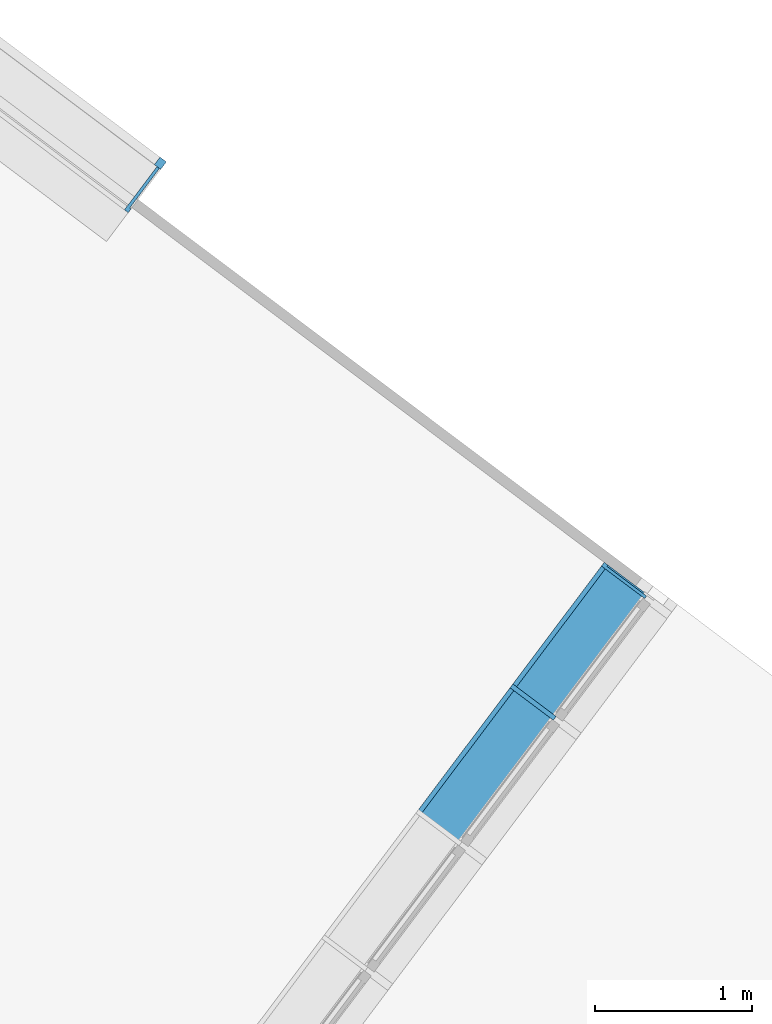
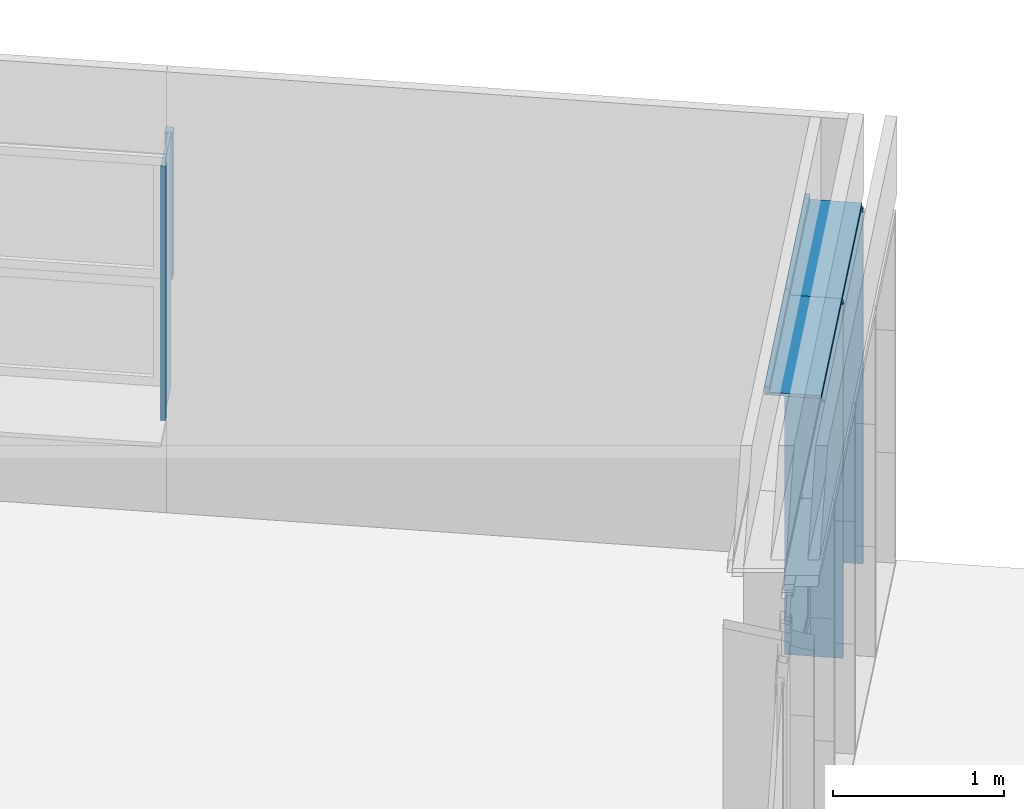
# One storey, part 74 of 243: 6 members, 3 elements without a shape of their own.
"""IFC2X3 building model written with IfcOpenShell, lengths in metres."""

from ifc_helpers import new_model, entity, si_unit, converted_unit, derived_unit, direction, frame, frame_2d, origin, place, context, subcontext, project, spatial, polyline, rectangle, outline, extrude, source, transform, mapped, material, type_object, type_shapes, element, aggregate, save


model = new_model("IFC2X3")

# Units and contexts
model_context = context("Model", 3, precision=1e-05, world=origin(), true_north=direction((6.123031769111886e-17, 1.0)))
body_context = subcontext(model_context, "Body", "Model", "MODEL_VIEW")
ifc_project = project(units=[si_unit("LENGTHUNIT", "METRE"), si_unit("AREAUNIT", "SQUARE_METRE"), si_unit("VOLUMEUNIT", "CUBIC_METRE"), converted_unit("PLANEANGLEUNIT", "DEGREE", entity("IfcRatioMeasure", 0.017453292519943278), si_unit("PLANEANGLEUNIT", "RADIAN"), dimensions=[0, 0, 0, 0, 0, 0, 0]), si_unit("MASSUNIT", "GRAM", prefix="KILO"), derived_unit("MASSDENSITYUNIT", [(si_unit("MASSUNIT", "GRAM", prefix="KILO"), 1), (si_unit("LENGTHUNIT", "METRE"), -3)]), derived_unit("IONCONCENTRATIONUNIT", [(si_unit("MASSUNIT", "GRAM", prefix="KILO"), 1), (si_unit("LENGTHUNIT", "METRE"), -3)]), derived_unit("MOMENTOFINERTIAUNIT", [(si_unit("LENGTHUNIT", "METRE"), 4)]), si_unit("TIMEUNIT", "SECOND"), si_unit("FREQUENCYUNIT", "HERTZ"), si_unit("THERMODYNAMICTEMPERATUREUNIT", "DEGREE_CELSIUS"), derived_unit("THERMALTRANSMITTANCEUNIT", [(si_unit("MASSUNIT", "GRAM", prefix="KILO"), 1), (si_unit("THERMODYNAMICTEMPERATUREUNIT", "KELVIN"), -1), (si_unit("TIMEUNIT", "SECOND"), -3)]), derived_unit("THERMALCONDUCTANCEUNIT", [(si_unit("MASSUNIT", "GRAM", prefix="KILO"), 1), (si_unit("THERMODYNAMICTEMPERATUREUNIT", "KELVIN"), -1), (si_unit("TIMEUNIT", "SECOND"), -3), (si_unit("LENGTHUNIT", "METRE"), 1)]), derived_unit("VOLUMETRICFLOWRATEUNIT", [(si_unit("LENGTHUNIT", "METRE"), 3), (si_unit("TIMEUNIT", "SECOND"), -1)]), derived_unit("MASSFLOWRATEUNIT", [(si_unit("MASSUNIT", "GRAM", prefix="KILO"), 1), (si_unit("TIMEUNIT", "SECOND"), -1)]), derived_unit("ROTATIONALFREQUENCYUNIT", [(si_unit("TIMEUNIT", "SECOND"), -1)]), si_unit("ELECTRICCURRENTUNIT", "AMPERE"), si_unit("ELECTRICVOLTAGEUNIT", "VOLT"), si_unit("POWERUNIT", "WATT"), si_unit("FORCEUNIT", "NEWTON", prefix="KILO"), si_unit("ILLUMINANCEUNIT", "LUX"), si_unit("LUMINOUSFLUXUNIT", "LUMEN"), si_unit("LUMINOUSINTENSITYUNIT", "CANDELA"), derived_unit("USERDEFINED", [(si_unit("MASSUNIT", "GRAM", prefix="KILO"), -1), (si_unit("LENGTHUNIT", "METRE"), -2), (si_unit("TIMEUNIT", "SECOND"), 3), (si_unit("LUMINOUSFLUXUNIT", "LUMEN"), 1)]), derived_unit("USERDEFINED", [(si_unit("MASSUNIT", "GRAM", prefix="KILO"), 1), (si_unit("TIMEUNIT", "SECOND"), -3), (si_unit("LENGTHUNIT", "METRE"), 3), (si_unit("ELECTRICCURRENTUNIT", "AMPERE"), -2)]), derived_unit("SOUNDPOWERUNIT", [(si_unit("MASSUNIT", "GRAM", prefix="KILO"), 1), (si_unit("TIMEUNIT", "SECOND"), -3), (si_unit("LENGTHUNIT", "METRE"), 2)]), derived_unit("SOUNDPRESSUREUNIT", [(si_unit("MASSUNIT", "GRAM", prefix="KILO"), 1), (si_unit("LENGTHUNIT", "METRE"), -1), (si_unit("TIMEUNIT", "SECOND"), -2)]), derived_unit("LINEARVELOCITYUNIT", [(si_unit("LENGTHUNIT", "METRE"), 1), (si_unit("TIMEUNIT", "SECOND"), -1)]), si_unit("PRESSUREUNIT", "PASCAL"), derived_unit("USERDEFINED", [(si_unit("MASSUNIT", "GRAM", prefix="KILO"), 1), (si_unit("LENGTHUNIT", "METRE"), -2), (si_unit("TIMEUNIT", "SECOND"), -2)]), derived_unit("LINEARFORCEUNIT", [(si_unit("MASSUNIT", "GRAM", prefix="KILO"), 1), (si_unit("TIMEUNIT", "SECOND"), -2)]), derived_unit("PLANARFORCEUNIT", [(si_unit("MASSUNIT", "GRAM", prefix="KILO"), 1), (si_unit("LENGTHUNIT", "METRE"), -1), (si_unit("TIMEUNIT", "SECOND"), -2)]), derived_unit("SPECIFICHEATCAPACITYUNIT", [(si_unit("THERMODYNAMICTEMPERATUREUNIT", "KELVIN"), -1), (si_unit("LENGTHUNIT", "METRE"), 2), (si_unit("TIMEUNIT", "SECOND"), -2)]), derived_unit("HEATINGVALUEUNIT", [(si_unit("LENGTHUNIT", "METRE"), 2), (si_unit("TIMEUNIT", "SECOND"), -2)]), derived_unit("VAPORPERMEABILITYUNIT", [(si_unit("LENGTHUNIT", "METRE"), -1), (si_unit("TIMEUNIT", "SECOND"), 1)]), derived_unit("DYNAMICVISCOSITYUNIT", [(si_unit("MASSUNIT", "GRAM", prefix="KILO"), 1), (si_unit("TIMEUNIT", "SECOND"), -1), (si_unit("LENGTHUNIT", "METRE"), -1)]), derived_unit("THERMALEXPANSIONCOEFFICIENTUNIT", [(si_unit("THERMODYNAMICTEMPERATUREUNIT", "KELVIN"), -1)]), derived_unit("MODULUSOFELASTICITYUNIT", [(si_unit("MASSUNIT", "GRAM", prefix="KILO"), 1), (si_unit("LENGTHUNIT", "METRE"), -1), (si_unit("TIMEUNIT", "SECOND"), -2)]), derived_unit("ISOTHERMALMOISTURECAPACITYUNIT", [(si_unit("LENGTHUNIT", "METRE"), 3), (si_unit("MASSUNIT", "GRAM", prefix="KILO"), -1)]), derived_unit("MOISTUREDIFFUSIVITYUNIT", [(si_unit("TIMEUNIT", "SECOND"), -1), (si_unit("LENGTHUNIT", "METRE"), 2)])], contexts=[model_context])

# Site, building, storey
site_placement = place(None, frame((0.0, 0.0, 235.0), z_axis=(0.0, 0.0, 1.0), x_axis=(-0.7996477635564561, 0.6004693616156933, 0.0)))
site = spatial("IfcSite", under=ifc_project, at=site_placement, Name="Default", CompositionType="ELEMENT")
building_placement = place(site_placement, origin())
building = spatial("IfcBuilding", under=site, at=building_placement, CompositionType="ELEMENT")
storey_placement = place(building_placement, origin())
storey = spatial("IfcBuildingStorey", under=building, at=storey_placement, Name="P0- Escola", CompositionType="ELEMENT", Elevation=0.0)

# Curtain wall, members
curtain_wall_type_1 = type_object("IfcCurtainWallType", Name="Muro cortina:MC- INT- k7- Aules infantil", PredefinedType="NOTDEFINED")
curtain_wall_1_placement = place(storey_placement, origin())
curtain_wall_1 = element("IfcCurtainWall", 1, at=curtain_wall_1_placement, inside=storey, type_object=curtain_wall_type_1, Name="Muro cortina:MC- INT- k7- Aules infantil", ObjectType="Muro cortina:MC- INT- k7- Aules infantil")
ifc_material_1 = material(Name="_Fusta massisa- T1")
member_type_1 = type_object("IfcMemberType", Name="Montante rectangular:MC- Fusta- 35x3 cm- Pati aules- Remat superior", PredefinedType="MULLION", material=ifc_material_1)
shared_shape_1 = source(origin(), body_context, "Body", "SweptSolid", [
    extrude(outline(polyline([(-0.21333333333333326, -0.02666666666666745), (0.1216666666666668, -0.02666666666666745), (0.12166666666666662, 0.03333333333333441), (0.09166666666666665, 0.03333333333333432), (0.09166666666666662, -0.006666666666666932), (-0.2133333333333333, -0.006666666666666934), (-0.21333333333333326, -0.02666666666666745)])), frame((-0.033333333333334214, 0.026666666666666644, -0.9849999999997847), z_axis=(0.0, 0.0, 1.0), x_axis=(0.0, -1.0, 0.0)), (0.0, 0.0, 1.0), 0.9849999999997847),
])
type_shapes(member_type_1, [shared_shape_1])
member_1_placement = place(curtain_wall_1_placement, frame((6.18514768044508, -41.97519175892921, 2.6), z_axis=(0.0, -1.0, 0.0), x_axis=(0.0, 0.0, 1.0)))
member_1 = element("IfcMember", 2, at=member_1_placement, type_object=member_type_1, material=ifc_material_1, Name="Montante rectangular:MC- Fusta- 35x3 cm- Pati aules- Remat superior", ObjectType="Montante rectangular:MC- Fusta- 35x3 cm- Pati aules- Remat superior", context=body_context, shape_type="MappedRepresentation", body=[
    mapped(shared_shape_1, transform((0.0, 0.0, 0.0), scale=1.0)),
])
member_type_2 = type_object("IfcMemberType", Name="Montante rectangular:MC- Fusta- 35x3 cm- Pati aules- Remat dreta", PredefinedType="MULLION", material=ifc_material_1)
shared_shape_2 = source(origin(), body_context, "Body", "SweptSolid", [
    extrude(outline(polyline([(-0.22000000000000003, -0.01666666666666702), (0.12500000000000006, -0.01666666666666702), (0.12499999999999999, 0.013333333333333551), (0.09500000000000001, 0.013333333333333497), (0.09499999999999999, 0.003333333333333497), (-0.22, 0.003333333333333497), (-0.22000000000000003, -0.01666666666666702)])), frame((-0.013333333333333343, 0.030000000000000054, -2.5399999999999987), z_axis=(0.0, 0.0, 1.0), x_axis=(0.0, -1.0, 0.0)), (0.0, 0.0, 1.0), 2.5399999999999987),
])
type_shapes(member_type_2, [shared_shape_2])
member_2_placement = place(curtain_wall_1_placement, frame((6.18514768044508, -41.97519175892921, 0.0), z_axis=(0.0, 0.0, -1.0), x_axis=(0.0, -1.0, 0.0)))
member_2 = element("IfcMember", 3, at=member_2_placement, type_object=member_type_2, material=ifc_material_1, Name="Montante rectangular:MC- Fusta- 35x3 cm- Pati aules- Remat dreta", ObjectType="Montante rectangular:MC- Fusta- 35x3 cm- Pati aules- Remat dreta", context=body_context, shape_type="MappedRepresentation", body=[
    mapped(shared_shape_2, transform((0.0, 0.0, 0.0), scale=1.0)),
])
member_type_3 = type_object("IfcMemberType", Name="Montante rectangular:MC- Fusta- 35x3 cm- Pati aules- Remat superior", PredefinedType="MULLION", material=ifc_material_1)
shared_shape_3 = source(origin(), body_context, "Body", "SweptSolid", [
    extrude(outline(polyline([(-0.2133333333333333, -0.02666666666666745), (0.12166666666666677, -0.02666666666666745), (0.1216666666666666, 0.03333333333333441), (0.09166666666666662, 0.03333333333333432), (0.0916666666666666, -0.006666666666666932), (-0.21333333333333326, -0.006666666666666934), (-0.2133333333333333, -0.02666666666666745)])), frame((-0.033333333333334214, 0.026666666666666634, -1.0), z_axis=(0.0, 0.0, 1.0), x_axis=(0.0, -1.0, 0.0)), (0.0, 0.0, 1.0), 0.9999999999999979),
])
type_shapes(member_type_3, [shared_shape_3])
member_3_placement = place(curtain_wall_1_placement, frame((6.1851476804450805, -40.99019175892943, 2.6), z_axis=(0.0, -1.0, 0.0), x_axis=(0.0, 0.0, 1.0)))
member_3 = element("IfcMember", 4, at=member_3_placement, type_object=member_type_3, material=ifc_material_1, Name="Montante rectangular:MC- Fusta- 35x3 cm- Pati aules- Remat superior", ObjectType="Montante rectangular:MC- Fusta- 35x3 cm- Pati aules- Remat superior", context=body_context, shape_type="MappedRepresentation", body=[
    mapped(shared_shape_3, transform((0.0, 0.0, 0.0), scale=1.0)),
])
member_type_4 = type_object("IfcMemberType", Name="Montante rectangular:MC- Fusta- 35x3 cm- Centre", PredefinedType="MULLION", material=ifc_material_1)
shared_shape_4 = source(origin(), body_context, "Body", "SweptSolid", [
    extrude(rectangle(XDim=0.3450000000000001, YDim=0.030000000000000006, at=frame_2d((0.0, 1.3964523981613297e-16), x_axis=(1.0, 0.0))), frame((0.0, 0.07750000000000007, -2.5399999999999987), z_axis=(0.0, 0.0, 1.0), x_axis=(0.0, -1.0, 0.0)), (0.0, 0.0, 1.0), 2.5399999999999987),
])
type_shapes(member_type_4, [shared_shape_4])
member_4_placement = place(curtain_wall_1_placement, frame((6.1851476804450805, -40.99019175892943, 0.0), z_axis=(0.0, 0.0, -1.0), x_axis=(0.0, -1.0, 0.0)))
member_4 = element("IfcMember", 5, at=member_4_placement, type_object=member_type_4, material=ifc_material_1, Name="Montante rectangular:MC- Fusta- 35x3 cm- Centre", ObjectType="Montante rectangular:MC- Fusta- 35x3 cm- Centre", context=body_context, shape_type="MappedRepresentation", body=[
    mapped(shared_shape_4, transform((0.0, 0.0, 0.0), scale=1.0)),
])
aggregate(curtain_wall_1, [member_1, member_2, member_3, member_4])

# Curtain wall, member
curtain_wall_type_2 = type_object("IfcCurtainWallType", Name="Muro cortina:MC- EXT- MC6", PredefinedType="NOTDEFINED")
curtain_wall_2_placement = place(storey_placement, origin())
curtain_wall_2 = element("IfcCurtainWall", 6, at=curtain_wall_2_placement, inside=storey, type_object=curtain_wall_type_2, Name="Muro cortina:MC- EXT- MC6", ObjectType="Muro cortina:MC- EXT- MC6")
ifc_material_2 = material(Name="_Alumini- T1- Perfil")
member_type_5 = type_object("IfcMemberType", Name="Montante rectangular:MC- Alu- 50x60 cm- Fa pista- Centre", PredefinedType="MULLION", material=ifc_material_2)
shared_shape_5 = source(origin(), body_context, "Body", "SweptSolid", [
    extrude(rectangle(XDim=0.0600000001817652, YDim=0.05, at=frame_2d((-8.673617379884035e-18, 0.0), x_axis=(1.0, 0.0))), frame((-0.025, -0.030000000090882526, -1.0475000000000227), z_axis=(0.0, 0.0, 1.0), x_axis=(0.0, -1.0, 0.0)), (0.0, 0.0, 1.0), 1.0475000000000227),
])
type_shapes(member_type_5, [shared_shape_5])
member_5_placement = place(curtain_wall_2_placement, frame((10.045147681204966, -42.34019175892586, 2.502500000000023), z_axis=(0.0, 0.0, 1.0), x_axis=(-1.0, 0.0, 0.0)))
member_5 = element("IfcMember", 7, at=member_5_placement, type_object=member_type_5, material=ifc_material_2, Name="Montante rectangular:MC- Alu- 50x60 cm- Fa pista- Centre", ObjectType="Montante rectangular:MC- Alu- 50x60 cm- Fa pista- Centre", context=body_context, shape_type="MappedRepresentation", body=[
    mapped(shared_shape_5, transform((0.0, 0.0, 0.0), scale=1.0)),
])
aggregate(curtain_wall_2, [member_5])

curtain_wall_type_3 = type_object("IfcCurtainWallType", Name="Muro cortina:MC- INT- Fa Pista", PredefinedType="NOTDEFINED")
curtain_wall_3_placement = place(storey_placement, origin())
curtain_wall_3 = element("IfcCurtainWall", 8, at=curtain_wall_3_placement, inside=storey, type_object=curtain_wall_type_3, Name="Muro cortina:MC- INT- Fa Pista", ObjectType="Muro cortina:MC- INT- Fa Pista")
member_type_6 = type_object("IfcMemberType", Name="Montante rectangular:MC- Fusta- 34x3 cm- Fa Pista- Remat esquerra", PredefinedType="MULLION", material=ifc_material_1)
shared_shape_6 = source(origin(), body_context, "Body", "SweptSolid", [
    extrude(outline(polyline([(-0.22000000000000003, -0.01666666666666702), (0.12500000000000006, -0.01666666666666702), (0.12499999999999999, 0.013333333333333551), (0.09500000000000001, 0.013333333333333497), (0.09499999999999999, 0.003333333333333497), (-0.22, 0.003333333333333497), (-0.22000000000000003, -0.01666666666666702)])), frame((-0.013333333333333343, 0.030000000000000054, -1.8199999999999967), z_axis=(0.0, 0.0, 1.0), x_axis=(0.0, -1.0, 0.0)), (0.0, 0.0, 1.0), 1.8199999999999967),
])
type_shapes(member_type_6, [shared_shape_6])
member_6_placement = place(curtain_wall_3_placement, frame((10.045147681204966, -42.03019175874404, 2.5049999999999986), z_axis=(0.0, 0.0, 1.0), x_axis=(-1.0, 0.0, 0.0)))
member_6 = element("IfcMember", 9, at=member_6_placement, type_object=member_type_6, material=ifc_material_1, Name="Montante rectangular:MC- Fusta- 34x3 cm- Fa Pista- Remat esquerra", ObjectType="Montante rectangular:MC- Fusta- 34x3 cm- Fa Pista- Remat esquerra", context=body_context, shape_type="MappedRepresentation", body=[
    mapped(shared_shape_6, transform((0.0, 0.0, 0.0), scale=1.0)),
])
aggregate(curtain_wall_3, [member_6])

save(model, "model.ifc")
